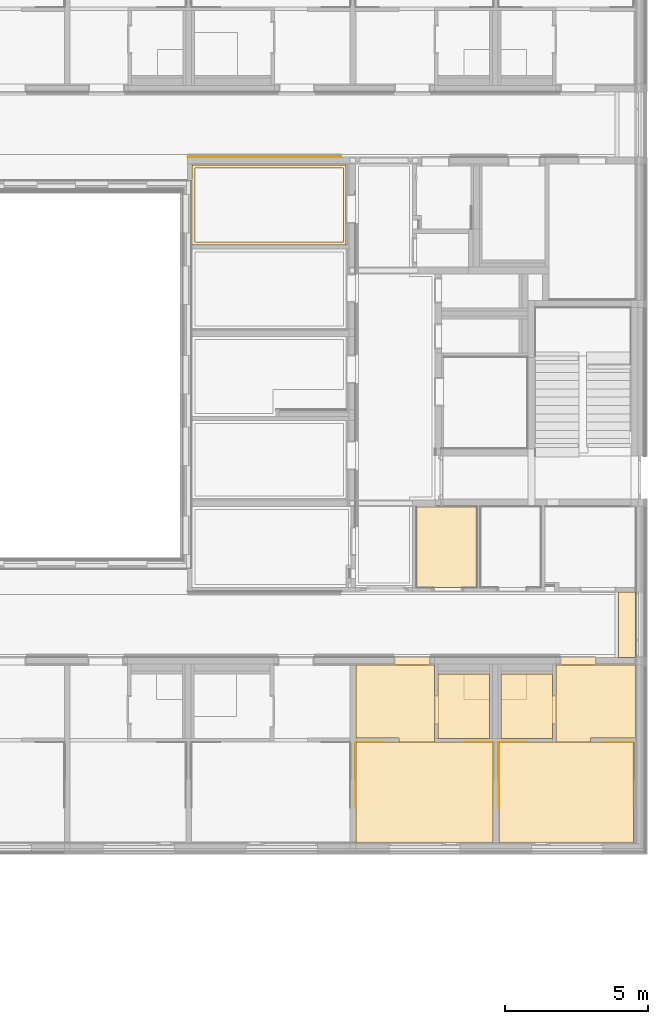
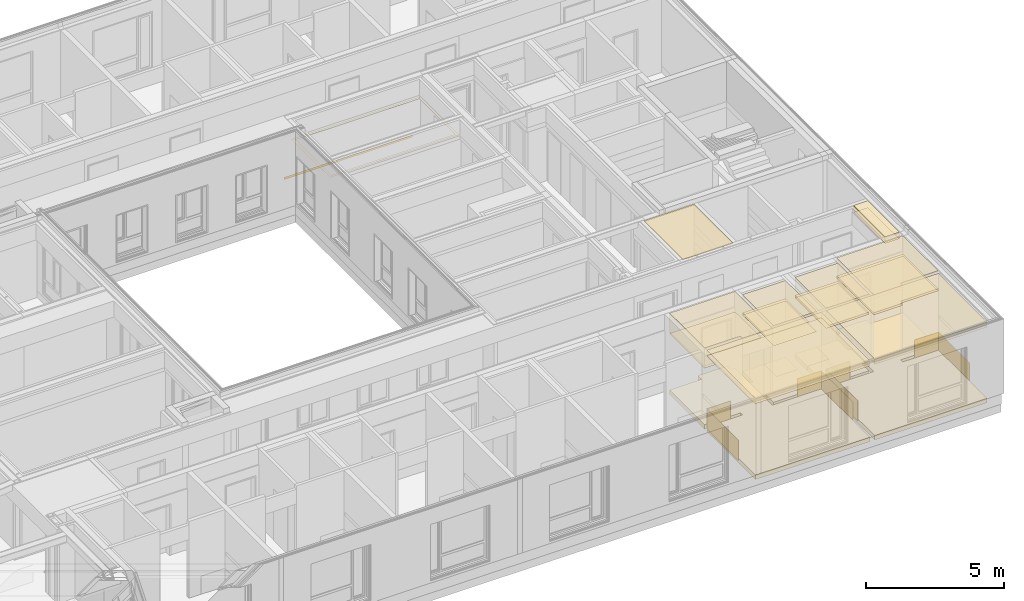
# One storey, part 185 of 207: 42 coverings.
"""IFC4 building model written with IfcOpenShell, lengths in metres."""

from ifc_helpers import new_model, entity, si_unit, converted_unit, derived_unit, frame, frame_2d, origin, origin_with_axes, place, context, subcontext, project, spatial, polyline, rectangle, outline, extrude, material, layer, layer_set, layer_usage, element, save


model = new_model("IFC4")

# Units and contexts
model_context = context("Model", 3, precision=1e-05, world=origin())
body_context = subcontext(model_context, "Body", "Model", "MODEL_VIEW")
ifc_project = project(units=[si_unit("LENGTHUNIT", "METRE"), si_unit("AREAUNIT", "SQUARE_METRE"), si_unit("VOLUMEUNIT", "CUBIC_METRE"), si_unit("MASSUNIT", "GRAM", prefix="KILO"), converted_unit("PLANEANGLEUNIT", "DEGREE", entity("IfcPlaneAngleMeasure", 0.0174532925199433), si_unit("PLANEANGLEUNIT", "RADIAN"), dimensions=[0, 0, 0, 0, 0, 0, 0]), derived_unit("THERMALTRANSMITTANCEUNIT", [(si_unit("POWERUNIT", "WATT"), 1), (si_unit("THERMODYNAMICTEMPERATUREUNIT", "KELVIN"), -1), (si_unit("LENGTHUNIT", "METRE"), -2)]), derived_unit("VOLUMETRICFLOWRATEUNIT", [(si_unit("LENGTHUNIT", "METRE"), 3), (converted_unit("TIMEUNIT", "hour", entity("IfcTimeMeasure", 3600.0), si_unit("TIMEUNIT", "SECOND"), dimensions=[0, 0, 1, 0, 0, 0, 0]), -1), (si_unit("LENGTHUNIT", "METRE"), -1)])], contexts=[model_context])

# Site, building, storey, space
site_placement = place(None, origin())
site = spatial("IfcSite", under=ifc_project, at=site_placement, Name="Psychiatrie Neubau Wunstorf", CompositionType="ELEMENT")
building_placement = place(site_placement, origin())
building = spatial("IfcBuilding", under=site, at=building_placement, Name="Neubau H2 Stationsgebäude", CompositionType="ELEMENT")
storey_placement = place(building_placement, frame((0.0, 0.0, -0.2)))
storey = spatial("IfcBuildingStorey", under=building, at=storey_placement, Name="H2 Ebene 0", CompositionType="ELEMENT", Elevation=-0.2)
space_1_placement = place(storey_placement, frame((73.3949999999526, 5.3325, 0.0)))
space_1 = spatial("IfcSpace", under=storey, at=space_1_placement, Name="WUN-H2-E00-F11", CompositionType="ELEMENT")

# Coverings
ifc_material_1 = material()
ifc_layer_1 = layer(ifc_material_1, 0.036)
ifc_layer_set_1 = layer_set([ifc_layer_1])
ifc_layer_usage_1 = layer_usage(ifc_layer_set_1, "AXIS3", "POSITIVE", 0.0)
covering_1_placement = place(space_1_placement, frame((31.8950000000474, 0.0, 3.6)))
element("IfcCovering", 1, at=covering_1_placement, inside=space_1, material=ifc_layer_usage_1, Name="Gipsfaserplatten 2-lagig (BSK)", PredefinedType="CEILING", context=body_context, shape_type="SweptSolid", body=[
    extrude(rectangle(XDim=0.598999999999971, YDim=2.29249999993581, at=frame_2d((0.299499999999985, 1.1462499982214), x_axis=(1.0, -5.83138394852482e-09))), frame((0.0, 2.29249999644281, 0.0), z_axis=(0.0, 0.0, -1.0), x_axis=(1.0, 0.0, 0.0)), (0.0, 0.0, 1.0), 0.036),
])
ifc_material_2 = material(Name="Installationshöhe")
ifc_layer_2 = layer(ifc_material_2, 0.164)
ifc_layer_set_2 = layer_set([ifc_layer_2])
ifc_layer_usage_2 = layer_usage(ifc_layer_set_2, "AXIS3", "POSITIVE", 0.0)
covering_2_placement = place(space_1_placement, frame((31.8950000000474, 0.0, 3.564)))
element("IfcCovering", 2, at=covering_2_placement, inside=space_1, material=ifc_layer_usage_2, Name="Gipsfaserplatten 2-lagig (BSK)", PredefinedType="CEILING", context=body_context, shape_type="SweptSolid", body=[
    extrude(rectangle(XDim=0.598999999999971, YDim=2.29249999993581, at=frame_2d((0.299499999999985, 1.1462499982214), x_axis=(1.0, -5.83138394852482e-09))), frame((0.0, 2.29249999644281, 0.0), z_axis=(0.0, 0.0, -1.0), x_axis=(1.0, 0.0, 0.0)), (0.0, 0.0, 1.0), 0.164),
])
ifc_material_3 = material(Name="A1")
ifc_layer_3 = layer(ifc_material_3, 0.1)
ifc_layer_set_3 = layer_set([ifc_layer_3])
ifc_layer_usage_3 = layer_usage(ifc_layer_set_3, "AXIS3", "POSITIVE", 0.0)
covering_3_placement = place(space_1_placement, frame((31.8950000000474, 0.0, 3.4)))
element("IfcCovering", 3, at=covering_3_placement, inside=space_1, material=ifc_layer_usage_3, Name="Gipsfaserplatten 2-lagig (BSK)", PredefinedType="CEILING", context=body_context, shape_type="SweptSolid", body=[
    extrude(rectangle(XDim=0.598999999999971, YDim=2.29249999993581, at=frame_2d((0.299499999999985, 1.1462499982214), x_axis=(1.0, -5.83138394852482e-09))), frame((0.0, 2.29249999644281, 0.0), z_axis=(0.0, 0.0, -1.0), x_axis=(1.0, 0.0, 0.0)), (0.0, 0.0, 1.0), 0.1),
])
ifc_material_4 = material(Name="D1")
ifc_layer_4 = layer(ifc_material_4, 0.001)
ifc_layer_set_4 = layer_set([ifc_layer_4])
ifc_layer_usage_4 = layer_usage(ifc_layer_set_4, "AXIS3", "POSITIVE", 0.0)
covering_4_placement = place(space_1_placement, frame((31.8950000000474, 0.0, 3.3)))
element("IfcCovering", 4, at=covering_4_placement, inside=space_1, material=ifc_layer_usage_4, Name="Gipsfaserplatten 2-lagig (BSK)", PredefinedType="CEILING", context=body_context, shape_type="SweptSolid", body=[
    extrude(rectangle(XDim=0.598999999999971, YDim=2.29249999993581, at=frame_2d((0.299499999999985, 1.1462499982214), x_axis=(1.0, -5.83138394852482e-09))), frame((0.0, 2.29249999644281, 0.0), z_axis=(0.0, 0.0, -1.0), x_axis=(1.0, 0.0, 0.0)), (0.0, 0.0, 1.0), 0.001),
])

# Space
space_2_placement = place(storey_placement, frame((74.055, 22.036, 0.0)))
space_2 = spatial("IfcSpace", under=storey, at=space_2_placement, Name="WUN-H2-E00-F09", CompositionType="ELEMENT")

# Covering
ifc_material_5 = material(Name="97")
ifc_layer_5 = layer(ifc_material_5, 0.001)
ifc_layer_set_5 = layer_set([ifc_layer_5])
ifc_layer_usage_5 = layer_usage(ifc_layer_set_5, "AXIS3", "POSITIVE", 0.0)
covering_5_placement = place(space_2_placement, frame((16.156, 0.799999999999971, 0.8)))
element("IfcCovering", 5, at=covering_5_placement, inside=space_2, material=ifc_layer_usage_5, Name="Handlauf", PredefinedType="CLADDING", context=body_context, shape_type="SweptSolid", body=[
    extrude(rectangle(XDim=0.1, YDim=5.37899999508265, at=frame_2d((-2.68949999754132, -0.05), x_axis=(0.0, -1.0))), frame((5.37899999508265, 0.0, 0.0), z_axis=(0.0, 1.0, 0.0), x_axis=(1.0, 0.0, 0.0)), (0.0, 0.0, 1.0), 0.001),
])

# Space
space_3_placement = place(storey_placement, frame((101.175, 2.48550000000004, 0.0)))
space_3 = spatial("IfcSpace", under=storey, at=space_3_placement, Name="WUN-H2-E00-090a", CompositionType="ELEMENT")

# Coverings
ifc_material_6 = material(Name="Fl1")
ifc_layer_6 = layer(ifc_material_6, 0.2)
ifc_layer_set_6 = layer_set([ifc_layer_6])
ifc_layer_usage_6 = layer_usage(ifc_layer_set_6, "AXIS3", "POSITIVE", 0.0)
covering_6_placement = place(space_3_placement, origin())
element("IfcCovering", 6, at=covering_6_placement, inside=space_3, material=ifc_layer_usage_6, Name="Fliesen", PredefinedType="FLOORING", context=body_context, shape_type="SweptSolid", body=[
    extrude(rectangle(XDim=0.125, YDim=1.01, at=frame_2d((-0.0625, -0.505), x_axis=(-1.0, 0.0))), frame((1.92500000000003, 1.50999999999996, 0.0), z_axis=(0.0, 0.0, 1.0), x_axis=(1.0, 0.0, 0.0)), (0.0, 0.0, 1.0), 0.2),
    extrude(outline(polyline([(0.0, 0.0), (1.8, 0.0), (1.8, 2.265), (0.9, 2.265), (0.9, 1.36499999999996), (0.0, 1.36499999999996), (0.0, 0.0)])), origin_with_axes(), (0.0, 0.0, 1.0), 0.2),
])
ifc_material_7 = material(Name="Fl2")
ifc_layer_7 = layer(ifc_material_7, 0.2)
ifc_layer_set_7 = layer_set([ifc_layer_7])
ifc_layer_usage_7 = layer_usage(ifc_layer_set_7, "AXIS3", "POSITIVE", 0.0)
covering_7_placement = place(space_3_placement, frame((0.0, 1.36499999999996, 0.0)))
element("IfcCovering", 7, at=covering_7_placement, inside=space_3, material=ifc_layer_usage_7, Name="Fliesen Mosaik", PredefinedType="FLOORING", context=body_context, shape_type="SweptSolid", body=[
    extrude(rectangle(XDim=0.9, YDim=0.9, at=frame_2d((0.45, -0.45), x_axis=(0.0, -1.0))), frame((0.0, 0.9, 0.0), z_axis=(0.0, 0.0, 1.0), x_axis=(1.0, 0.0, 0.0)), (0.0, 0.0, 1.0), 0.2),
])
ifc_material_8 = material()
ifc_layer_8 = layer(ifc_material_8, 0.036)
ifc_layer_set_8 = layer_set([ifc_layer_8])
ifc_layer_usage_8 = layer_usage(ifc_layer_set_8, "AXIS3", "POSITIVE", 0.0)
covering_8_placement = place(space_3_placement, frame((0.0, 0.0, 3.6)))
element("IfcCovering", 8, at=covering_8_placement, inside=space_3, material=ifc_layer_usage_8, Name="Gipsfaserplatten 2-lagig (BSK)", PredefinedType="CEILING", context=body_context, shape_type="SweptSolid", body=[
    extrude(rectangle(XDim=1.8, YDim=2.265, at=frame_2d((0.9, 1.1325), x_axis=(1.0, 0.0))), frame((0.0, 2.265, 0.0), z_axis=(0.0, 0.0, -1.0), x_axis=(1.0, 0.0, 0.0)), (0.0, 0.0, 1.0), 0.036),
])
ifc_material_9 = material(Name="Installationshöhe")
ifc_layer_9 = layer(ifc_material_9, 0.764)
ifc_layer_set_9 = layer_set([ifc_layer_9])
ifc_layer_usage_9 = layer_usage(ifc_layer_set_9, "AXIS3", "POSITIVE", 0.0)
covering_9_placement = place(space_3_placement, frame((0.0, 0.0, 3.564)))
element("IfcCovering", 9, at=covering_9_placement, inside=space_3, material=ifc_layer_usage_9, Name="Gipsfaserplatten 2-lagig (BSK)", PredefinedType="CEILING", context=body_context, shape_type="SweptSolid", body=[
    extrude(rectangle(XDim=1.8, YDim=2.265, at=frame_2d((0.9, 1.1325), x_axis=(1.0, 0.0))), frame((0.0, 2.265, 0.0), z_axis=(0.0, 0.0, -1.0), x_axis=(1.0, 0.0, 0.0)), (0.0, 0.0, 1.0), 0.764),
])
ifc_material_10 = material(Name="B")
ifc_layer_10 = layer(ifc_material_10, 0.1)
ifc_layer_set_10 = layer_set([ifc_layer_10])
ifc_layer_usage_10 = layer_usage(ifc_layer_set_10, "AXIS3", "POSITIVE", 0.0)
covering_10_placement = place(space_3_placement, frame((0.0, 0.0, 2.8)))
element("IfcCovering", 10, at=covering_10_placement, inside=space_3, material=ifc_layer_usage_10, Name="Gipskarton, imprägniert", PredefinedType="CEILING", context=body_context, shape_type="SweptSolid", body=[
    extrude(rectangle(XDim=1.8, YDim=2.265, at=frame_2d((0.9, 1.1325), x_axis=(1.0, 0.0))), frame((0.0, 2.265, 0.0), z_axis=(0.0, 0.0, -1.0), x_axis=(1.0, 0.0, 0.0)), (0.0, 0.0, 1.0), 0.1),
])
ifc_material_11 = material(Name="D1")
ifc_layer_11 = layer(ifc_material_11, 0.001)
ifc_layer_set_11 = layer_set([ifc_layer_11])
ifc_layer_usage_11 = layer_usage(ifc_layer_set_11, "AXIS3", "POSITIVE", 0.0)
covering_11_placement = place(space_3_placement, frame((0.0, 0.0, 2.7)))
element("IfcCovering", 11, at=covering_11_placement, inside=space_3, material=ifc_layer_usage_11, Name="Gipsfaserplatten 2-lagig (BSK)", PredefinedType="CEILING", context=body_context, shape_type="SweptSolid", body=[
    extrude(rectangle(XDim=1.8, YDim=2.265, at=frame_2d((0.9, 1.1325), x_axis=(1.0, 0.0))), frame((0.0, 2.265, 0.0), z_axis=(0.0, 0.0, -1.0), x_axis=(1.0, 0.0, 0.0)), (0.0, 0.0, 1.0), 0.001),
])

# Space
space_4_placement = place(storey_placement, frame((98.975, 2.48550000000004, 0.0)))
space_4 = spatial("IfcSpace", under=storey, at=space_4_placement, Name="WUN-H2-E00-091a", CompositionType="ELEMENT")

# Coverings
ifc_material_12 = material(Name="Fl1")
ifc_layer_12 = layer(ifc_material_12, 0.2)
ifc_layer_set_12 = layer_set([ifc_layer_12])
ifc_layer_usage_12 = layer_usage(ifc_layer_set_12, "AXIS3", "POSITIVE", 0.0)
covering_12_placement = place(space_4_placement, frame((-0.124999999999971, 0.0, 0.0)))
element("IfcCovering", 12, at=covering_12_placement, inside=space_4, material=ifc_layer_usage_12, Name="Fliesen", PredefinedType="FLOORING", context=body_context, shape_type="SweptSolid", body=[
    extrude(rectangle(XDim=0.125, YDim=1.01, at=frame_2d((0.0625, 0.505), x_axis=(1.0, 0.0))), frame((0.0, 0.499999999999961, 0.0), z_axis=(0.0, 0.0, 1.0), x_axis=(1.0, 0.0, 0.0)), (0.0, 0.0, 1.0), 0.2),
    extrude(outline(polyline([(0.0, 0.0), (1.8, 0.0), (1.8, 1.36499999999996), (0.9, 1.36499999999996), (0.9, 2.265), (0.0, 2.265), (0.0, 0.0)])), frame((0.124999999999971, 0.0, 0.0), z_axis=(0.0, 0.0, 1.0), x_axis=(1.0, 0.0, 0.0)), (0.0, 0.0, 1.0), 0.2),
])
ifc_material_13 = material(Name="Fl2")
ifc_layer_13 = layer(ifc_material_13, 0.2)
ifc_layer_set_13 = layer_set([ifc_layer_13])
ifc_layer_usage_13 = layer_usage(ifc_layer_set_13, "AXIS3", "POSITIVE", 0.0)
covering_13_placement = place(space_4_placement, frame((0.9, 1.36499999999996, 0.0)))
element("IfcCovering", 13, at=covering_13_placement, inside=space_4, material=ifc_layer_usage_13, Name="Fliesen Mosaik", PredefinedType="FLOORING", context=body_context, shape_type="SweptSolid", body=[
    extrude(rectangle(XDim=0.9, YDim=0.9, at=frame_2d((-0.45, -0.45), x_axis=(-1.0, 0.0))), frame((0.9, 0.9, 0.0), z_axis=(0.0, 0.0, 1.0), x_axis=(1.0, 0.0, 0.0)), (0.0, 0.0, 1.0), 0.2),
])
ifc_material_14 = material()
ifc_layer_14 = layer(ifc_material_14, 0.036)
ifc_layer_set_14 = layer_set([ifc_layer_14])
ifc_layer_usage_14 = layer_usage(ifc_layer_set_14, "AXIS3", "POSITIVE", 0.0)
covering_14_placement = place(space_4_placement, frame((0.0, 0.0, 3.6)))
element("IfcCovering", 14, at=covering_14_placement, inside=space_4, material=ifc_layer_usage_14, Name="Gipsfaserplatten 2-lagig (BSK)", PredefinedType="CEILING", context=body_context, shape_type="SweptSolid", body=[
    extrude(rectangle(XDim=2.265, YDim=1.8, at=frame_2d((0.9, -1.1325), x_axis=(0.0, -1.0))), frame((0.0, 0.0, 0.0), z_axis=(0.0, 0.0, -1.0), x_axis=(1.0, 0.0, 0.0)), (0.0, 0.0, 1.0), 0.036),
])
ifc_material_15 = material(Name="Installationshöhe")
ifc_layer_15 = layer(ifc_material_15, 0.764)
ifc_layer_set_15 = layer_set([ifc_layer_15])
ifc_layer_usage_15 = layer_usage(ifc_layer_set_15, "AXIS3", "POSITIVE", 0.0)
covering_15_placement = place(space_4_placement, frame((0.0, 0.0, 3.564)))
element("IfcCovering", 15, at=covering_15_placement, inside=space_4, material=ifc_layer_usage_15, Name="Gipsfaserplatten 2-lagig (BSK)", PredefinedType="CEILING", context=body_context, shape_type="SweptSolid", body=[
    extrude(rectangle(XDim=2.265, YDim=1.8, at=frame_2d((0.9, -1.1325), x_axis=(0.0, -1.0))), frame((0.0, 0.0, 0.0), z_axis=(0.0, 0.0, -1.0), x_axis=(1.0, 0.0, 0.0)), (0.0, 0.0, 1.0), 0.764),
])
ifc_material_16 = material(Name="B")
ifc_layer_16 = layer(ifc_material_16, 0.1)
ifc_layer_set_16 = layer_set([ifc_layer_16])
ifc_layer_usage_16 = layer_usage(ifc_layer_set_16, "AXIS3", "POSITIVE", 0.0)
covering_16_placement = place(space_4_placement, frame((0.0, 0.0, 2.8)))
element("IfcCovering", 16, at=covering_16_placement, inside=space_4, material=ifc_layer_usage_16, Name="Gipskarton, imprägniert", PredefinedType="CEILING", context=body_context, shape_type="SweptSolid", body=[
    extrude(rectangle(XDim=2.265, YDim=1.8, at=frame_2d((0.9, -1.1325), x_axis=(0.0, -1.0))), frame((0.0, 0.0, 0.0), z_axis=(0.0, 0.0, -1.0), x_axis=(1.0, 0.0, 0.0)), (0.0, 0.0, 1.0), 0.1),
])
ifc_material_17 = material(Name="D1")
ifc_layer_17 = layer(ifc_material_17, 0.001)
ifc_layer_set_17 = layer_set([ifc_layer_17])
ifc_layer_usage_17 = layer_usage(ifc_layer_set_17, "AXIS3", "POSITIVE", 0.0)
covering_17_placement = place(space_4_placement, frame((0.0, 0.0, 2.7)))
element("IfcCovering", 17, at=covering_17_placement, inside=space_4, material=ifc_layer_usage_17, Name="Gipsfaserplatten 2-lagig (BSK)", PredefinedType="CEILING", context=body_context, shape_type="SweptSolid", body=[
    extrude(rectangle(XDim=2.265, YDim=1.8, at=frame_2d((0.9, -1.1325), x_axis=(0.0, -1.0))), frame((0.0, 0.0, 0.0), z_axis=(0.0, 0.0, -1.0), x_axis=(1.0, 0.0, 0.0)), (0.0, 0.0, 1.0), 0.001),
])

# Space
space_5_placement = place(storey_placement, frame((90.3575, 19.768, 0.0)))
space_5 = spatial("IfcSpace", under=storey, at=space_5_placement, Name="WUN-H2-E00-086", CompositionType="ELEMENT")

# Covering
ifc_material_18 = material(Name="D1")
ifc_layer_18 = layer(ifc_material_18, 0.001)
ifc_layer_set_18 = layer_set([ifc_layer_18])
ifc_layer_usage_18 = layer_usage(ifc_layer_set_18, "AXIS3", "POSITIVE", 0.0)
covering_18_placement = place(space_5_placement, frame((0.0035, 0.0, 2.7)))
element("IfcCovering", 18, at=covering_18_placement, inside=space_5, material=ifc_layer_usage_18, Name="Gipsfaserplatten 2-lagig (BSK)", PredefinedType="CEILING", context=body_context, shape_type="SweptSolid", body=[
    extrude(outline(polyline([(0.0, 0.0), (5.4, 0.0), (5.4, 2.79600000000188), (0.0, 2.79600000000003), (0.0, 0.0)]), holes=[polyline([(0.0999999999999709, 2.69599999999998), (5.29999997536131, 2.69600000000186), (5.29999997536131, 0.100000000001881), (0.0999999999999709, 0.1), (0.0999999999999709, 2.69599999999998)])]), frame((0.0, 2.79600000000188, 0.0), z_axis=(0.0, 0.0, -1.0), x_axis=(1.0, 0.0, 0.0)), (0.0, 0.0, 1.0), 0.001),
])

# Space
space_6_placement = place(storey_placement, frame((101.1, -1.16399999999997, 0.0)))
space_6 = spatial("IfcSpace", under=storey, at=space_6_placement, Name="WUN-H2-E00-090", CompositionType="ELEMENT")

# Coverings
ifc_material_19 = material(Name="84")
ifc_layer_19 = layer(ifc_material_19, 0.001)
ifc_layer_set_19 = layer_set([ifc_layer_19])
ifc_layer_usage_19 = layer_usage(ifc_layer_set_19, "AXIS3", "POSITIVE", 0.0)
covering_19_placement = place(space_6_placement, frame((3.714, 1.22449999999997, 0.1)))
element("IfcCovering", 19, at=covering_19_placement, inside=space_6, material=ifc_layer_usage_19, Name="Acrobyn", PredefinedType="CLADDING", context=body_context, shape_type="SweptSolid", body=[
    extrude(rectangle(XDim=0.9, YDim=1.0, at=frame_2d((-0.5, -0.45), x_axis=(0.0, -1.0))), frame((0.0, 2.3, 0.0), z_axis=(4.54747350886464e-16, -1.0, 0.0), x_axis=(-1.0, -4.54747350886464e-16, 0.0)), (0.0, 0.0, 1.0), 0.001),
    extrude(rectangle(XDim=0.9, YDim=2.3, at=frame_2d((-1.15, -0.45), x_axis=(0.0, -1.0))), frame((1.0, 2.3, 0.0), z_axis=(-1.0, 0.0, 0.0), x_axis=(0.0, 1.0, 0.0)), (0.0, 0.0, 1.0), 0.001),
])
ifc_material_20 = material(Name="84")
ifc_layer_20 = layer(ifc_material_20, 0.001)
ifc_layer_set_20 = layer_set([ifc_layer_20])
ifc_layer_usage_20 = layer_usage(ifc_layer_set_20, "AXIS3", "POSITIVE", 0.0)
covering_20_placement = place(space_6_placement, frame((3.66121530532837e-08, 1.22449994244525, 0.1)))
element("IfcCovering", 20, at=covering_20_placement, inside=space_6, material=ifc_layer_usage_20, Name="Acrobyn", PredefinedType="CLADDING", context=body_context, shape_type="SweptSolid", body=[
    extrude(rectangle(XDim=1.0, YDim=0.9, at=frame_2d((0.5, -0.45), x_axis=(1.0, 0.0))), frame((1.0, 2.3, 0.0), z_axis=(0.0, -1.0, 0.0), x_axis=(-1.0, 0.0, 0.0)), (0.0, 0.0, 1.0), 0.001),
    extrude(rectangle(XDim=2.3, YDim=0.9, at=frame_2d((1.15, -0.45), x_axis=(1.0, 0.0))), frame((0.0, 2.3, 0.0), z_axis=(1.0, 0.0, 0.0), x_axis=(0.0, -1.0, 0.0)), (0.0, 0.0, 1.0), 0.001),
])
ifc_material_21 = material(Name="Ku1")
ifc_layer_21 = layer(ifc_material_21, 0.2)
ifc_layer_set_21 = layer_set([ifc_layer_21])
ifc_layer_usage_21 = layer_usage(ifc_layer_set_21, "AXIS3", "POSITIVE", 0.0)
covering_21_placement = place(space_6_placement, origin())
element("IfcCovering", 21, at=covering_21_placement, inside=space_6, material=ifc_layer_usage_21, Name="PVC Bahnenware Holzoptik", PredefinedType="FLOORING", context=body_context, shape_type="SweptSolid", body=[
    extrude(rectangle(XDim=0.272, YDim=1.26, at=frame_2d((-0.63, 0.136), x_axis=(0.0, 1.0))), frame((3.41, 6.22449999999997, 0.0), z_axis=(0.0, 0.0, 1.0), x_axis=(1.0, 0.0, 0.0)), (0.0, 0.0, 1.0), 0.2),
    extrude(outline(polyline([(3.214, 3.67449999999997), (4.789, 3.67449999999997), (4.78899999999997, 6.22450000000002), (2.0, 6.22450000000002), (1.99999999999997, 3.52450000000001), (0.0, 3.52450000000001), (0.0, 0.0), (4.714, 0.0), (4.714, 3.52449999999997), (3.21399999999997, 3.52449999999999), (3.214, 3.67449999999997)])), origin_with_axes(), (0.0, 0.0, 1.0), 0.2),
])
ifc_material_22 = material()
ifc_layer_22 = layer(ifc_material_22, 0.036)
ifc_layer_set_22 = layer_set([ifc_layer_22])
ifc_layer_usage_22 = layer_usage(ifc_layer_set_22, "AXIS3", "POSITIVE", 0.0)
covering_22_placement = place(space_6_placement, frame((0.0, 0.0, 3.6)))
element("IfcCovering", 22, at=covering_22_placement, inside=space_6, material=ifc_layer_usage_22, Name="Gipsfaserplatten 2-lagig (BSK)", PredefinedType="CEILING", context=body_context, shape_type="SweptSolid", body=[
    extrude(rectangle(XDim=3.52449999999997, YDim=4.714, at=frame_2d((-2.357, 1.76224999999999), x_axis=(0.0, 1.0))), frame((4.714, 3.52449999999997, 0.0), z_axis=(0.0, 0.0, -1.0), x_axis=(1.0, 0.0, 0.0)), (0.0, 0.0, 1.0), 0.036),
])
ifc_material_23 = material(Name="Installationshöhe")
ifc_layer_23 = layer(ifc_material_23, 0.114)
ifc_layer_set_23 = layer_set([ifc_layer_23])
ifc_layer_usage_23 = layer_usage(ifc_layer_set_23, "AXIS3", "POSITIVE", 0.0)
covering_23_placement = place(space_6_placement, frame((0.0, 0.0, 3.564)))
element("IfcCovering", 23, at=covering_23_placement, inside=space_6, material=ifc_layer_usage_23, Name="Gipsfaserplatten 2-lagig (BSK)", PredefinedType="CEILING", context=body_context, shape_type="SweptSolid", body=[
    extrude(rectangle(XDim=3.52449999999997, YDim=4.714, at=frame_2d((-2.357, 1.76224999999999), x_axis=(0.0, 1.0))), frame((4.714, 3.52449999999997, 0.0), z_axis=(0.0, 0.0, -1.0), x_axis=(1.0, 0.0, 0.0)), (0.0, 0.0, 1.0), 0.114),
])
ifc_material_24 = material(Name="A1")
ifc_layer_24 = layer(ifc_material_24, 0.1)
ifc_layer_set_24 = layer_set([ifc_layer_24])
ifc_layer_usage_24 = layer_usage(ifc_layer_set_24, "AXIS3", "POSITIVE", 0.0)
covering_24_placement = place(space_6_placement, frame((0.0, 0.0, 3.45)))
element("IfcCovering", 24, at=covering_24_placement, inside=space_6, material=ifc_layer_usage_24, Name="Gipsfaserplatten 2-lagig (BSK)", PredefinedType="CEILING", context=body_context, shape_type="SweptSolid", body=[
    extrude(rectangle(XDim=3.52449999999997, YDim=4.714, at=frame_2d((-2.357, 1.76224999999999), x_axis=(0.0, 1.0))), frame((4.714, 3.52449999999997, 0.0), z_axis=(0.0, 0.0, -1.0), x_axis=(1.0, 0.0, 0.0)), (0.0, 0.0, 1.0), 0.1),
])
ifc_material_25 = material(Name="D1")
ifc_layer_25 = layer(ifc_material_25, 0.001)
ifc_layer_set_25 = layer_set([ifc_layer_25])
ifc_layer_usage_25 = layer_usage(ifc_layer_set_25, "AXIS3", "POSITIVE", 0.0)
covering_25_placement = place(space_6_placement, frame((0.0, 0.0, 3.35)))
element("IfcCovering", 25, at=covering_25_placement, inside=space_6, material=ifc_layer_usage_25, Name="Gipsfaserplatten 2-lagig (BSK)", PredefinedType="CEILING", context=body_context, shape_type="SweptSolid", body=[
    extrude(rectangle(XDim=3.52449999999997, YDim=4.714, at=frame_2d((-2.357, 1.76224999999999), x_axis=(0.0, 1.0))), frame((4.714, 3.52449999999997, 0.0), z_axis=(0.0, 0.0, -1.0), x_axis=(1.0, 0.0, 0.0)), (0.0, 0.0, 1.0), 0.001),
])
ifc_material_26 = material()
ifc_layer_26 = layer(ifc_material_26, 0.036)
ifc_layer_set_26 = layer_set([ifc_layer_26])
ifc_layer_usage_26 = layer_usage(ifc_layer_set_26, "AXIS3", "POSITIVE", 0.0)
covering_26_placement = place(space_6_placement, frame((2.0, 3.52449999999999, 3.6)))
element("IfcCovering", 26, at=covering_26_placement, inside=space_6, material=ifc_layer_usage_26, Name="Gipsfaserplatten 2-lagig (BSK)", PredefinedType="CEILING", context=body_context, shape_type="SweptSolid", body=[
    extrude(outline(polyline([(2.78899999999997, 0.0), (2.789, 2.55000000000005), (1.214, 2.55000000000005), (1.21399999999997, 2.70000000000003), (0.0, 2.70000000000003), (0.0, 0.0), (2.78899999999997, 0.0)])), frame((0.0, 2.70000000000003, 0.0), z_axis=(0.0, 0.0, -1.0), x_axis=(1.0, 0.0, 0.0)), (0.0, 0.0, 1.0), 0.036),
])
ifc_material_27 = material(Name="Installationshöhe")
ifc_layer_27 = layer(ifc_material_27, 0.764)
ifc_layer_set_27 = layer_set([ifc_layer_27])
ifc_layer_usage_27 = layer_usage(ifc_layer_set_27, "AXIS3", "POSITIVE", 0.0)
covering_27_placement = place(space_6_placement, frame((2.0, 3.52449999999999, 3.564)))
element("IfcCovering", 27, at=covering_27_placement, inside=space_6, material=ifc_layer_usage_27, Name="Gipsfaserplatten 2-lagig (BSK)", PredefinedType="CEILING", context=body_context, shape_type="SweptSolid", body=[
    extrude(outline(polyline([(2.78899999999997, 0.0), (2.789, 2.55000000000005), (1.214, 2.55000000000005), (1.21399999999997, 2.70000000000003), (0.0, 2.70000000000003), (0.0, 0.0), (2.78899999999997, 0.0)])), frame((0.0, 2.70000000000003, 0.0), z_axis=(0.0, 0.0, -1.0), x_axis=(1.0, 0.0, 0.0)), (0.0, 0.0, 1.0), 0.764),
])
ifc_material_28 = material(Name="A1")
ifc_layer_28 = layer(ifc_material_28, 0.1)
ifc_layer_set_28 = layer_set([ifc_layer_28])
ifc_layer_usage_28 = layer_usage(ifc_layer_set_28, "AXIS3", "POSITIVE", 0.0)
covering_28_placement = place(space_6_placement, frame((2.0, 3.52449999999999, 2.8)))
element("IfcCovering", 28, at=covering_28_placement, inside=space_6, material=ifc_layer_usage_28, Name="Gipsfaserplatten 2-lagig (BSK)", PredefinedType="CEILING", context=body_context, shape_type="SweptSolid", body=[
    extrude(outline(polyline([(2.78899999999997, 0.0), (2.789, 2.55000000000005), (1.214, 2.55000000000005), (1.21399999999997, 2.70000000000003), (0.0, 2.70000000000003), (0.0, 0.0), (2.78899999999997, 0.0)])), frame((0.0, 2.70000000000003, 0.0), z_axis=(0.0, 0.0, -1.0), x_axis=(1.0, 0.0, 0.0)), (0.0, 0.0, 1.0), 0.1),
])
ifc_material_29 = material(Name="D1")
ifc_layer_29 = layer(ifc_material_29, 0.001)
ifc_layer_set_29 = layer_set([ifc_layer_29])
ifc_layer_usage_29 = layer_usage(ifc_layer_set_29, "AXIS3", "POSITIVE", 0.0)
covering_29_placement = place(space_6_placement, frame((2.0, 3.52449999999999, 2.7)))
element("IfcCovering", 29, at=covering_29_placement, inside=space_6, material=ifc_layer_usage_29, Name="Gipsfaserplatten 2-lagig (BSK)", PredefinedType="CEILING", context=body_context, shape_type="SweptSolid", body=[
    extrude(outline(polyline([(2.78899999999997, 0.0), (2.789, 2.55000000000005), (1.214, 2.55000000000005), (1.21399999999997, 2.70000000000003), (0.0, 2.70000000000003), (0.0, 0.0), (2.78899999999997, 0.0)])), frame((0.0, 2.70000000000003, 0.0), z_axis=(0.0, 0.0, -1.0), x_axis=(1.0, 0.0, 0.0)), (0.0, 0.0, 1.0), 0.001),
])

# Space
space_7_placement = place(storey_placement, frame((96.1, -1.16399999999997, 0.0)))
space_7 = spatial("IfcSpace", under=storey, at=space_7_placement, Name="WUN-H2-E00-091", CompositionType="ELEMENT")

# Coverings
ifc_material_30 = material(Name="84")
ifc_layer_30 = layer(ifc_material_30, 0.001)
ifc_layer_set_30 = layer_set([ifc_layer_30])
ifc_layer_usage_30 = layer_usage(ifc_layer_set_30, "AXIS3", "POSITIVE", 0.0)
covering_30_placement = place(space_7_placement, frame((3.80000006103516, 1.22449994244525, 0.1)))
element("IfcCovering", 30, at=covering_30_placement, inside=space_7, material=ifc_layer_usage_30, Name="Acrobyn", PredefinedType="CLADDING", context=body_context, shape_type="SweptSolid", body=[
    extrude(rectangle(XDim=0.9, YDim=1.0, at=frame_2d((-0.5, -0.45), x_axis=(0.0, -1.0))), frame((0.0, 2.3, 0.0), z_axis=(4.54747350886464e-16, -1.0, 0.0), x_axis=(-1.0, -4.54747350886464e-16, 0.0)), (0.0, 0.0, 1.0), 0.001),
    extrude(rectangle(XDim=0.9, YDim=2.3, at=frame_2d((-1.15, -0.45), x_axis=(0.0, -1.0))), frame((1.0, 2.3, 0.0), z_axis=(-1.0, 0.0, 0.0), x_axis=(0.0, 1.0, 0.0)), (0.0, 0.0, 1.0), 0.001),
])
ifc_material_31 = material(Name="84")
ifc_layer_31 = layer(ifc_material_31, 0.001)
ifc_layer_set_31 = layer_set([ifc_layer_31])
ifc_layer_usage_31 = layer_usage(ifc_layer_set_31, "AXIS3", "POSITIVE", 0.0)
covering_31_placement = place(space_7_placement, frame((3.66121530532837e-08, 1.22449994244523, 0.1)))
element("IfcCovering", 31, at=covering_31_placement, inside=space_7, material=ifc_layer_usage_31, Name="Acrobyn", PredefinedType="CLADDING", context=body_context, shape_type="SweptSolid", body=[
    extrude(rectangle(XDim=1.0, YDim=0.9, at=frame_2d((0.5, -0.45), x_axis=(1.0, 0.0))), frame((1.0, 2.3, 0.0), z_axis=(0.0, -1.0, 0.0), x_axis=(-1.0, 0.0, 0.0)), (0.0, 0.0, 1.0), 0.001),
    extrude(rectangle(XDim=2.3, YDim=0.9, at=frame_2d((1.15, -0.45), x_axis=(1.0, 0.0))), frame((0.0, 2.3, 0.0), z_axis=(1.0, 0.0, 0.0), x_axis=(0.0, -1.0, 0.0)), (0.0, 0.0, 1.0), 0.001),
])
ifc_material_32 = material(Name="Ku1")
ifc_layer_32 = layer(ifc_material_32, 0.2)
ifc_layer_set_32 = layer_set([ifc_layer_32])
ifc_layer_usage_32 = layer_usage(ifc_layer_set_32, "AXIS3", "POSITIVE", 0.0)
covering_32_placement = place(space_7_placement, origin())
element("IfcCovering", 32, at=covering_32_placement, inside=space_7, material=ifc_layer_usage_32, Name="PVC Bahnenware Holzoptik", PredefinedType="FLOORING", context=body_context, shape_type="SweptSolid", body=[
    extrude(rectangle(XDim=0.272, YDim=1.26, at=frame_2d((-0.63, 0.136), x_axis=(0.0, 1.0))), frame((2.6, 6.22449999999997, 0.0), z_axis=(0.0, 0.0, 1.0), x_axis=(1.0, 0.0, 0.0)), (0.0, 0.0, 1.0), 0.2),
    extrude(outline(polyline([(0.0, 6.22450000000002), (0.0, 3.67449999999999), (1.5, 3.67449999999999), (1.49999999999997, 3.52449999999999), (0.0, 3.52449999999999), (0.0, 0.0), (4.8, 0.0), (4.8, 3.5245), (2.74999999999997, 3.5245), (2.75, 6.22450000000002), (0.0, 6.22450000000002)])), origin_with_axes(), (0.0, 0.0, 1.0), 0.2),
])
ifc_material_33 = material()
ifc_layer_33 = layer(ifc_material_33, 0.036)
ifc_layer_set_33 = layer_set([ifc_layer_33])
ifc_layer_usage_33 = layer_usage(ifc_layer_set_33, "AXIS3", "POSITIVE", 0.0)
covering_33_placement = place(space_7_placement, frame((0.0, 0.0, 3.6)))
element("IfcCovering", 33, at=covering_33_placement, inside=space_7, material=ifc_layer_usage_33, Name="Gipsfaserplatten 2-lagig (BSK)", PredefinedType="CEILING", context=body_context, shape_type="SweptSolid", body=[
    extrude(rectangle(XDim=3.5245, YDim=4.8, at=frame_2d((-2.4, 1.76225), x_axis=(0.0, 1.0))), frame((4.8, 3.5245, 0.0), z_axis=(0.0, 0.0, -1.0), x_axis=(1.0, 0.0, 0.0)), (0.0, 0.0, 1.0), 0.036),
])
ifc_material_34 = material(Name="Installationshöhe")
ifc_layer_34 = layer(ifc_material_34, 0.114)
ifc_layer_set_34 = layer_set([ifc_layer_34])
ifc_layer_usage_34 = layer_usage(ifc_layer_set_34, "AXIS3", "POSITIVE", 0.0)
covering_34_placement = place(space_7_placement, frame((0.0, 0.0, 3.564)))
element("IfcCovering", 34, at=covering_34_placement, inside=space_7, material=ifc_layer_usage_34, Name="Gipsfaserplatten 2-lagig (BSK)", PredefinedType="CEILING", context=body_context, shape_type="SweptSolid", body=[
    extrude(rectangle(XDim=3.5245, YDim=4.8, at=frame_2d((-2.4, 1.76225), x_axis=(0.0, 1.0))), frame((4.8, 3.5245, 0.0), z_axis=(0.0, 0.0, -1.0), x_axis=(1.0, 0.0, 0.0)), (0.0, 0.0, 1.0), 0.114),
])
ifc_material_35 = material(Name="A1")
ifc_layer_35 = layer(ifc_material_35, 0.1)
ifc_layer_set_35 = layer_set([ifc_layer_35])
ifc_layer_usage_35 = layer_usage(ifc_layer_set_35, "AXIS3", "POSITIVE", 0.0)
covering_35_placement = place(space_7_placement, frame((0.0, 0.0, 3.45)))
element("IfcCovering", 35, at=covering_35_placement, inside=space_7, material=ifc_layer_usage_35, Name="Gipsfaserplatten 2-lagig (BSK)", PredefinedType="CEILING", context=body_context, shape_type="SweptSolid", body=[
    extrude(rectangle(XDim=3.5245, YDim=4.8, at=frame_2d((-2.4, 1.76225), x_axis=(0.0, 1.0))), frame((4.8, 3.5245, 0.0), z_axis=(0.0, 0.0, -1.0), x_axis=(1.0, 0.0, 0.0)), (0.0, 0.0, 1.0), 0.1),
])
ifc_material_36 = material(Name="D1")
ifc_layer_36 = layer(ifc_material_36, 0.001)
ifc_layer_set_36 = layer_set([ifc_layer_36])
ifc_layer_usage_36 = layer_usage(ifc_layer_set_36, "AXIS3", "POSITIVE", 0.0)
covering_36_placement = place(space_7_placement, frame((0.0, 0.0, 3.35)))
element("IfcCovering", 36, at=covering_36_placement, inside=space_7, material=ifc_layer_usage_36, Name="Gipsfaserplatten 2-lagig (BSK)", PredefinedType="CEILING", context=body_context, shape_type="SweptSolid", body=[
    extrude(rectangle(XDim=3.5245, YDim=4.8, at=frame_2d((-2.4, 1.76225), x_axis=(0.0, 1.0))), frame((4.8, 3.5245, 0.0), z_axis=(0.0, 0.0, -1.0), x_axis=(1.0, 0.0, 0.0)), (0.0, 0.0, 1.0), 0.001),
])
ifc_material_37 = material()
ifc_layer_37 = layer(ifc_material_37, 0.036)
ifc_layer_set_37 = layer_set([ifc_layer_37])
ifc_layer_usage_37 = layer_usage(ifc_layer_set_37, "AXIS3", "POSITIVE", 0.0)
covering_37_placement = place(space_7_placement, frame((0.0, 3.52449999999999, 3.6)))
element("IfcCovering", 37, at=covering_37_placement, inside=space_7, material=ifc_layer_usage_37, Name="Gipsfaserplatten 2-lagig (BSK)", PredefinedType="CEILING", context=body_context, shape_type="SweptSolid", body=[
    extrude(outline(polyline([(2.75, 2.70000000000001), (1.49999999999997, 2.70000000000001), (1.5, 2.55000000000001), (0.0, 2.55000000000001), (0.0, 0.0), (2.75, 0.0), (2.75, 2.70000000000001)])), frame((0.0, 2.70000000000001, 0.0), z_axis=(0.0, 0.0, -1.0), x_axis=(1.0, 0.0, 0.0)), (0.0, 0.0, 1.0), 0.036),
])
ifc_material_38 = material(Name="Installationshöhe")
ifc_layer_38 = layer(ifc_material_38, 0.764)
ifc_layer_set_38 = layer_set([ifc_layer_38])
ifc_layer_usage_38 = layer_usage(ifc_layer_set_38, "AXIS3", "POSITIVE", 0.0)
covering_38_placement = place(space_7_placement, frame((0.0, 3.52449999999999, 3.564)))
element("IfcCovering", 38, at=covering_38_placement, inside=space_7, material=ifc_layer_usage_38, Name="Gipsfaserplatten 2-lagig (BSK)", PredefinedType="CEILING", context=body_context, shape_type="SweptSolid", body=[
    extrude(outline(polyline([(2.75, 2.70000000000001), (1.49999999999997, 2.70000000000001), (1.5, 2.55000000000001), (0.0, 2.55000000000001), (0.0, 0.0), (2.75, 0.0), (2.75, 2.70000000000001)])), frame((0.0, 2.70000000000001, 0.0), z_axis=(0.0, 0.0, -1.0), x_axis=(1.0, 0.0, 0.0)), (0.0, 0.0, 1.0), 0.764),
])
ifc_material_39 = material(Name="A1")
ifc_layer_39 = layer(ifc_material_39, 0.1)
ifc_layer_set_39 = layer_set([ifc_layer_39])
ifc_layer_usage_39 = layer_usage(ifc_layer_set_39, "AXIS3", "POSITIVE", 0.0)
covering_39_placement = place(space_7_placement, frame((0.0, 3.52449999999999, 2.8)))
element("IfcCovering", 39, at=covering_39_placement, inside=space_7, material=ifc_layer_usage_39, Name="Gipsfaserplatten 2-lagig (BSK)", PredefinedType="CEILING", context=body_context, shape_type="SweptSolid", body=[
    extrude(outline(polyline([(2.75, 2.70000000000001), (1.49999999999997, 2.70000000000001), (1.5, 2.55000000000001), (0.0, 2.55000000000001), (0.0, 0.0), (2.75, 0.0), (2.75, 2.70000000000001)])), frame((0.0, 2.70000000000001, 0.0), z_axis=(0.0, 0.0, -1.0), x_axis=(1.0, 0.0, 0.0)), (0.0, 0.0, 1.0), 0.1),
])
ifc_material_40 = material(Name="D1")
ifc_layer_40 = layer(ifc_material_40, 0.001)
ifc_layer_set_40 = layer_set([ifc_layer_40])
ifc_layer_usage_40 = layer_usage(ifc_layer_set_40, "AXIS3", "POSITIVE", 0.0)
covering_40_placement = place(space_7_placement, frame((0.0, 3.52449999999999, 2.7)))
element("IfcCovering", 40, at=covering_40_placement, inside=space_7, material=ifc_layer_usage_40, Name="Gipsfaserplatten 2-lagig (BSK)", PredefinedType="CEILING", context=body_context, shape_type="SweptSolid", body=[
    extrude(outline(polyline([(2.75, 2.70000000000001), (1.49999999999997, 2.70000000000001), (1.5, 2.55000000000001), (0.0, 2.55000000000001), (0.0, 0.0), (2.75, 0.0), (2.75, 2.70000000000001)])), frame((0.0, 2.70000000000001, 0.0), z_axis=(0.0, 0.0, -1.0), x_axis=(1.0, 0.0, 0.0)), (0.0, 0.0, 1.0), 0.001),
])

# Space
space_8_placement = place(storey_placement, frame((98.225, 7.77499990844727, 0.0)))
space_8 = spatial("IfcSpace", under=storey, at=space_8_placement, Name="WUN-H2-E00-087", CompositionType="ELEMENT")

# Coverings
ifc_material_41 = material(Name="C/C")
ifc_layer_41 = layer(ifc_material_41, 0.036)
ifc_layer_set_41 = layer_set([ifc_layer_41])
ifc_layer_usage_41 = layer_usage(ifc_layer_set_41, "AXIS3", "POSITIVE", 0.0)
covering_41_placement = place(space_8_placement, frame((0.0, 0.0, 3.6)))
element("IfcCovering", 41, at=covering_41_placement, inside=space_8, material=ifc_layer_usage_41, Name="Gipsfaserplatten 2-lagig (BSK)", PredefinedType="CEILING", context=body_context, shape_type="SweptSolid", body=[
    extrude(rectangle(XDim=2.81999998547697, YDim=2.1, at=frame_2d((1.05, -1.40999999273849), x_axis=(0.0, -1.0))), frame((0.0, 0.0, 0.0), z_axis=(0.0, 0.0, -1.0), x_axis=(1.0, 0.0, 0.0)), (0.0, 0.0, 1.0), 0.036),
])
ifc_material_42 = material(Name="D4")
ifc_layer_42 = layer(ifc_material_42, 0.001)
ifc_layer_set_42 = layer_set([ifc_layer_42])
ifc_layer_usage_42 = layer_usage(ifc_layer_set_42, "AXIS3", "POSITIVE", 0.0)
covering_42_placement = place(space_8_placement, frame((0.0, 0.0, 3.564)))
element("IfcCovering", 42, at=covering_42_placement, inside=space_8, material=ifc_layer_usage_42, Name="Gipsfaserplatten 2-lagig (BSK)", PredefinedType="CEILING", context=body_context, shape_type="SweptSolid", body=[
    extrude(rectangle(XDim=2.81999998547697, YDim=2.1, at=frame_2d((1.05, -1.40999999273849), x_axis=(0.0, -1.0))), frame((0.0, 0.0, 0.0), z_axis=(0.0, 0.0, -1.0), x_axis=(1.0, 0.0, 0.0)), (0.0, 0.0, 1.0), 0.001),
])

save(model, "model.ifc")
